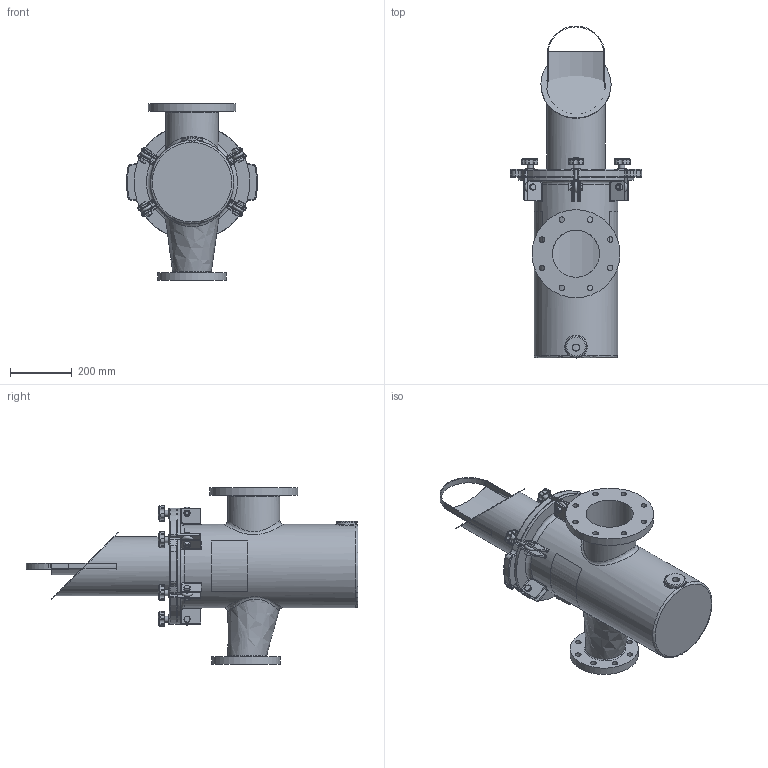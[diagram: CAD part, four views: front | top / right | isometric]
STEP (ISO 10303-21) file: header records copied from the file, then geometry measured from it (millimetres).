
FILE_DESCRIPTION(/* description */ ('150MM X 100MM FIBERGLASS STRAINER BODY'),/* implementation_level */ '2;1');
FILE_NAME(/* name */ 'C:\Users\r.kommineni.ext\Desktop\NB\CAD\Workspace\FG Reducing Strainer\Guardian FG Reducing H&L Strainer (Metric)_CLEARANCE VOLUME\STRAINER H&L 150MM X 100MM.stp',/* time_stamp */ '2017-06-09T13:34:09-04:00',/* author */ ('r.kommineni.ext'),/* organization */ (''),/* preprocessor_version */ 'ST-DEVELOPER v16.1',/* originating_system */ 'Autodesk Inventor 2016',/* authorisation */ '');
FILE_SCHEMA (('CONFIG_CONTROL_DESIGN'));
Length unit declared in the file: inch
Products named in the file (19): NBFGBODY06X04MM; 150NBCVR48R1; 150NBGSK48R1; Perforated Basket 10in; Bride (Ring) 10in; Baffle 10in; Handle 10in; Bottom Strainer 10in; Nut- 1_2  UNC; Bolt-1_2 x 1 1_2  UNC; EyeBolt; Washer; Knob M10; Securing Assembly For FG without Brace; Label for 10.625 inch (Right); Label for 10.625 inch (Left); NBBSK08T316_clearance; NBBSK08T316_clearance_1; STRAINER H&L 150MM X 100MM
Assembly tree (23 placements, depth 3):
  STRAINER H&L 150MM X 100MM
    NBFGBODY06X04MM
    150NBCVR48R1
    150NBGSK48R1
    NBBSK08T316_clearance_1
      Perforated Basket 10in
      Bride (Ring) 10in
      Baffle 10in
      Handle 10in
      Bottom Strainer 10in
      NBBSK08T316_clearance
    Securing Assembly For FG without Brace  x6
      Nut- 1_2  UNC
      Bolt-1_2 x 1 1_2  UNC
      EyeBolt
      Washer
      Knob M10
    Label for 10.625 inch (Right)
    Label for 10.625 inch (Left)
Bounding box: 424.18 x 1073.15 x 571.5 mm (x, y, z)
Volume: 11318093 mm3; surface area: 3145708.8 mm2
Topology: 40 solids, 45 shells, 1297 faces, 2993 edges, 1777 vertices
Faces by surface type: cylinder 476, plane 344, cone 138, torus 124, bspline 113, sphere 102
Full cylindrical faces by diameter (mm): 3.175 x10, 6.35 x2, 8.382 x6, 9.525 x12, 10.592 x6, 12.7 x6, 15.875 x12, 17.78 x16, 19 x12, 19.05 x6, 22.809 x1, 31.75 x6, 68.263 x1, 152.4 x1, 168.275 x1, 187.325 x2, 190.5 x2, 193.04 x1, 220.98 x1, 254 x2, 266.7 x1, 269.875 x1, 276.225 x1, 284.48 x1, 311.15 x1, 317.5 x1
Entity records: 27480 total; most frequent: CARTESIAN_POINT 10820, DIRECTION 3451, ORIENTED_EDGE 3100, EDGE_CURVE 1576, AXIS2_PLACEMENT_3D 1445, VERTEX_POINT 1003, EDGE_LOOP 885, CIRCLE 726
